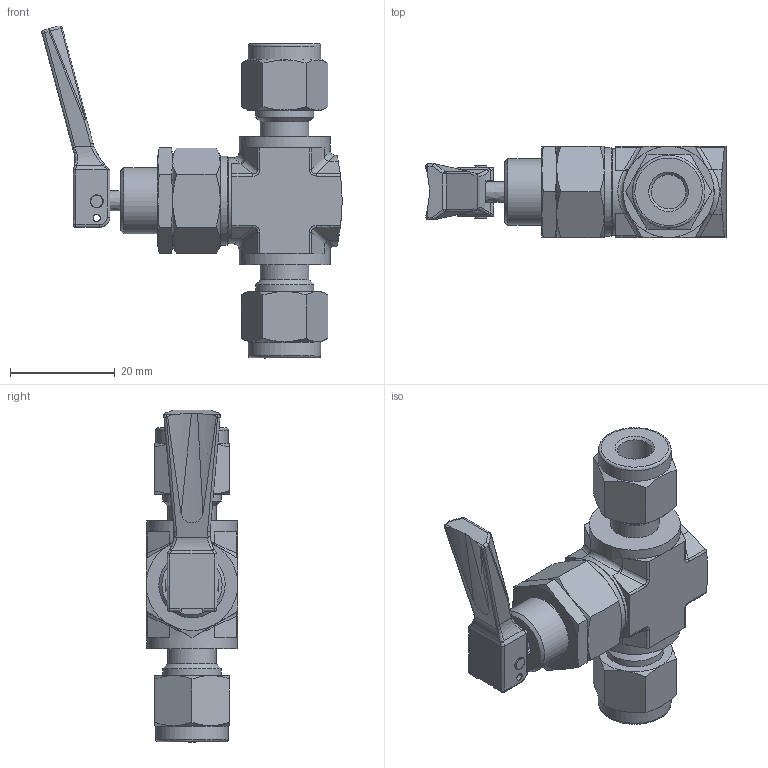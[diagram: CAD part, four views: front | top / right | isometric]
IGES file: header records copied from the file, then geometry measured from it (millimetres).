
Global section: file name: STV2-S4; native system: Autodesk Inventor 2016; preprocessor: unknown; author: 이승민,,11,0; organization: 20161227.231343; date: 20161229.080810; units: millimetre
Bounding box: 57.38 x 17.5 x 63.44 mm (x, y, z)
Volume: 17073.3 mm3; surface area: 9803.6 mm2
Topology: 6 solids, 6 shells, 294 faces, 732 edges, 465 vertices
Faces by surface type: bspline 294
